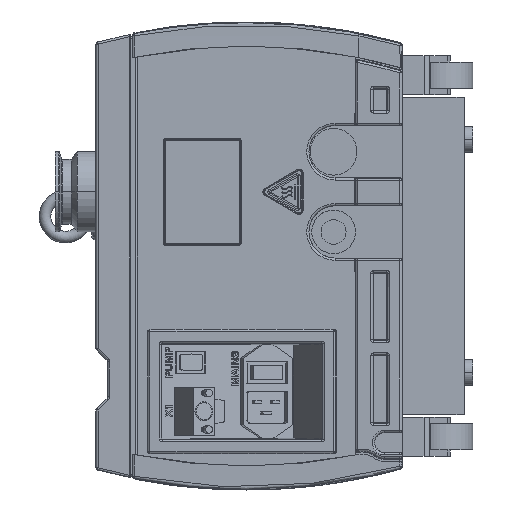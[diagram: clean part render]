
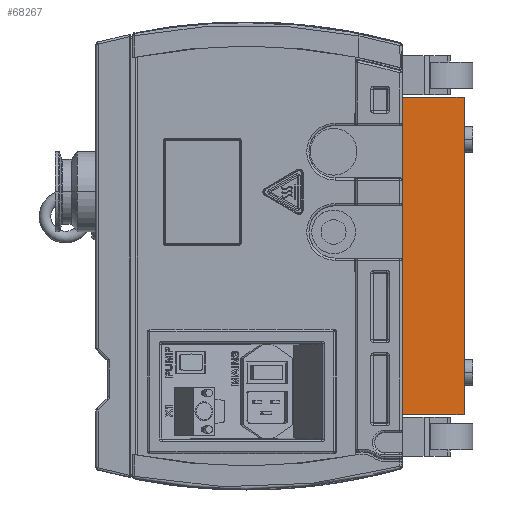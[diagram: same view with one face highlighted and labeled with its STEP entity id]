
A CAD part, left-side view. The second image highlights one B-rep face of the part: STEP entity #68267.
In plain terms, the highlighted planar face has unit normal (-1, 0, 0).
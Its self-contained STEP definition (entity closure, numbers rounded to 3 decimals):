
#1392=DIRECTION('',(0.,0.,-1.));
#1393=VECTOR('',#1392,218.);
#1394=CARTESIAN_POINT('',(173.8,-121.,42.5));
#1395=LINE('',#1394,#1393);
#21003=DIRECTION('',(0.,1.,0.));
#21004=VECTOR('',#21003,42.5);
#21005=CARTESIAN_POINT('',(173.8,-163.5,42.5));
#21006=LINE('',#21005,#21004);
#21023=DIRECTION('',(0.,1.,0.));
#21024=VECTOR('',#21023,42.5);
#21025=CARTESIAN_POINT('',(173.8,-163.5,-175.5));
#21026=LINE('',#21025,#21024);
#21031=DIRECTION('',(0.,0.,1.));
#21032=VECTOR('',#21031,218.);
#21033=CARTESIAN_POINT('',(173.8,-163.5,-175.5));
#21034=LINE('',#21033,#21032);
#26136=CARTESIAN_POINT('',(173.8,-121.,42.5));
#26138=VERTEX_POINT('',#26136);
#26139=CARTESIAN_POINT('',(173.8,-121.,-175.5));
#26140=VERTEX_POINT('',#26139);
#29578=CARTESIAN_POINT('',(173.8,-163.5,42.5));
#29579=VERTEX_POINT('',#29578);
#29582=CARTESIAN_POINT('',(173.8,-163.5,-175.5));
#29583=VERTEX_POINT('',#29582);
#68255=CARTESIAN_POINT('',(173.8,-121.,42.5));
#68256=DIRECTION('',(-1.,0.,0.));
#68257=DIRECTION('',(0.,-1.,0.));
#68258=AXIS2_PLACEMENT_3D('',#68255,#68256,#68257);
#68259=PLANE('',#68258);
#68260=ORIENTED_EDGE('',*,*,#30902,.F.);
#68261=ORIENTED_EDGE('',*,*,#68201,.F.);
#68263=ORIENTED_EDGE('',*,*,#68262,.F.);
#68264=ORIENTED_EDGE('',*,*,#68239,.T.);
#68265=EDGE_LOOP('',(#68260,#68261,#68263,#68264));
#68266=FACE_OUTER_BOUND('',#68265,.F.);
#30902=EDGE_CURVE('',#26138,#26140,#1395,.T.);
#68201=EDGE_CURVE('',#29579,#26138,#21006,.T.);
#68239=EDGE_CURVE('',#29583,#26140,#21026,.T.);
#68262=EDGE_CURVE('',#29583,#29579,#21034,.T.);
#68267=ADVANCED_FACE('',(#68266),#68259,.T.);
